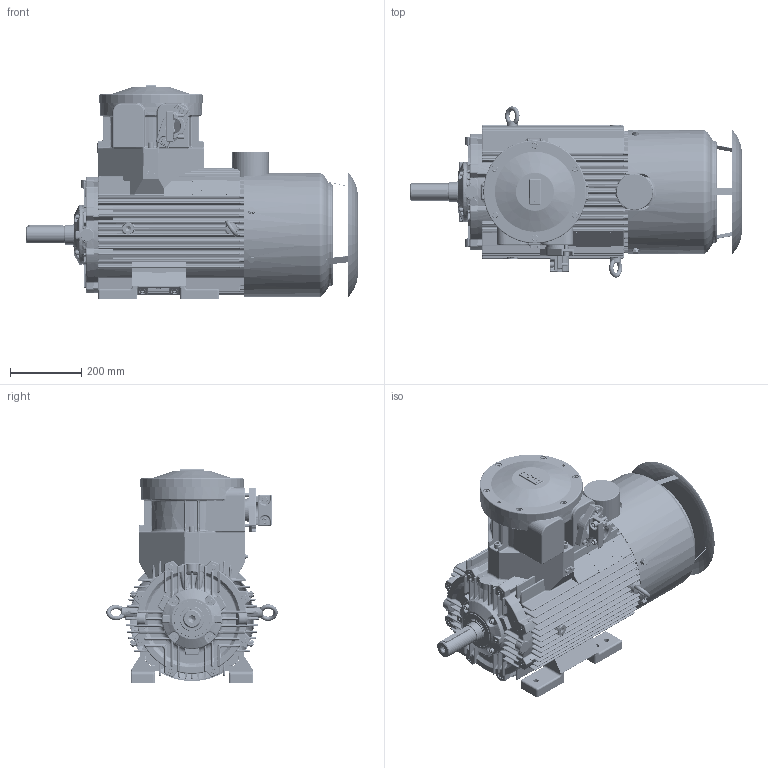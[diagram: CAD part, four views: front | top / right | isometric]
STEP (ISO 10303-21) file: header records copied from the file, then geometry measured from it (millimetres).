
FILE_DESCRIPTION(/* description */ ('Unknown'),/* implementation_level */ '2;1');
FILE_NAME(/* name */ '(E)cSTe180M,L(2-8)-IE2,IE3',/* time_stamp */ '2021-12-14T10:14:10+01:00',/* author */ ('Unknown'),/* organization */ ('Unknown'),/* preprocessor_version */ 'ST-DEVELOPER v16.7',/* originating_system */ 'DEX',/* authorisation */ $);
FILE_SCHEMA (('AUTOMOTIVE_DESIGN {1 0 10303 214 3 1 1}'));
Length unit declared in the file: millimetre
Products named in the file (1): (E)cSTe180M,L(2-8)-IE2,IE3
Bounding box: 932.29 x 480.92 x 600.81 mm (x, y, z)
Volume: 43814444.5 mm3; surface area: 4744088.1 mm2
Topology: 12 solids, 67 shells, 8321 faces, 21633 edges, 13482 vertices
Faces by surface type: plane 4015, cylinder 1975, bspline 1043, torus 719, cone 445, sphere 124
Full cylindrical faces by diameter (mm): 2.459 x6, 2.5 x6, 3.2 x6, 3.4 x6, 4.5 x1, 4.773 x2, 4.917 x12, 6 x6, 6.075 x1, 6.3 x1, 6.466 x4, 6.5 x2, 6.647 x10, 8 x9, 8.16 x16, 8.376 x44, 8.917 x2, 9 x4, 9.853 x14, 10 x37, 10.106 x36, 10.5 x4, 11 x8, 12 x34, 13 x8, 13.5 x14, 14.376 x2, 14.63 x4, 15 x6, 16 x5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
Entity records: 318821 total; most frequent: CARTESIAN_POINT 81248, ORIENTED_EDGE 40322, DIRECTION 37647, EDGE_CURVE 20161, AXIS2_PLACEMENT_3D 13347, VERTEX_POINT 13060, LINE 10953, VECTOR 10953
